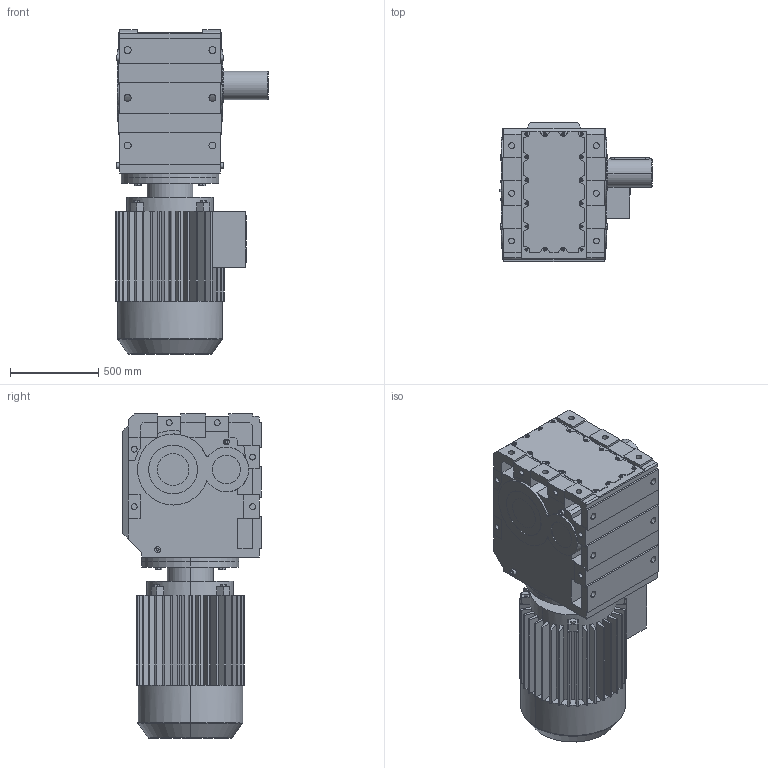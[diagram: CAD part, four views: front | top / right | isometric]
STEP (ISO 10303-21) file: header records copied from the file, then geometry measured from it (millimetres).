
FILE_DESCRIPTION(('Open CASCADE Model'),'2;1');
FILE_NAME('Open CASCADE Shape Model','2021-05-12T15:31:20',('Author'),( 'Open CASCADE'),'Open CASCADE STEP processor 6.3','Open CASCADE 6.3' ,'Unknown');
FILE_SCHEMA(('AUTOMOTIVE_DESIGN_CC2 { 1 2 10303 214 -1 1 5 4 }'));
Length unit declared in the file: millimetre
Products named in the file (4): 1_K167DV315S-A; K167‵187_167.step; 萇儂_550-DV315S-999-1210-612-430.step; す瑩妗陑粣K_167.step
Assembly tree (3 placements, depth 2):
  1_K167DV315S-A
    K167‵187_167.step
    萇儂_550-DV315S-999-1210-612-430.step
    す瑩妗陑粣K_167.step
Bounding box: 860.99 x 786 x 1836 mm (x, y, z)
Volume: 583716385.5 mm3; surface area: 9198726.3 mm2
Topology: 3 solids, 3 shells, 917 faces, 2376 edges, 1546 vertices
Faces by surface type: plane 617, cylinder 288, cone 8, torus 4
Entity records: 59621 total; most frequent: CARTESIAN_POINT 14107, DIRECTION 7944, ORIENTED_EDGE 4748, PCURVE 4748, DEFINITIONAL_REPRESENTATION 4748, LINE 4231, VECTOR 4231, EDGE_CURVE 2374
